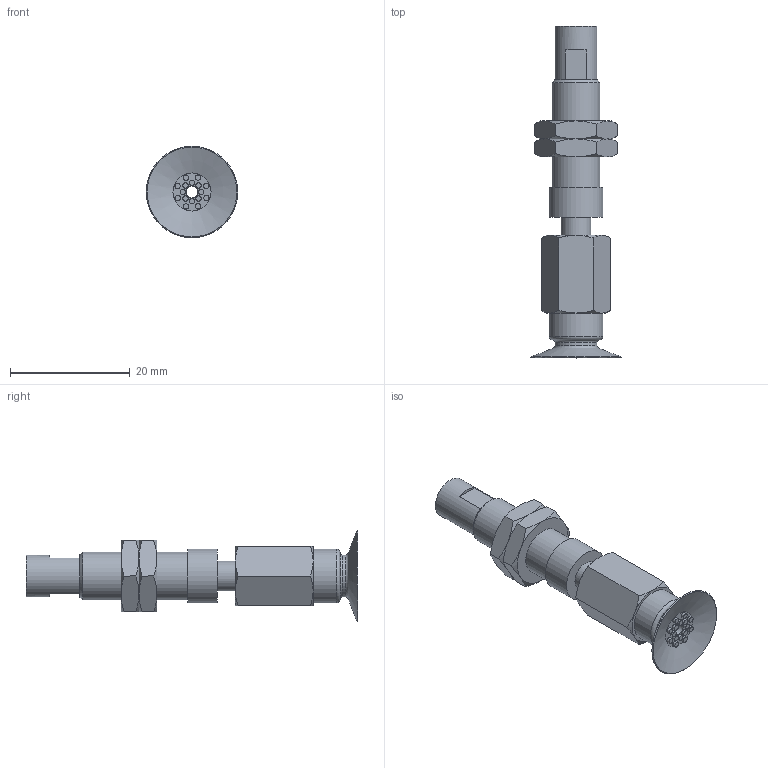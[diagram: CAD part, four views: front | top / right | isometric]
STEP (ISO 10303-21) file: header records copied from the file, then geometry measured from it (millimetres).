
FILE_DESCRIPTION(('STEP AP203'),'1');
FILE_NAME('.stp','2025-08-26T08:45:22',(' '),(' '),'Spatial InterOp 3D',' ',' ');
FILE_SCHEMA(('CONFIG_CONTROL_DESIGN'));
Length unit declared in the file: millimetre
Products named in the file (6): BNABPATS-15A-3-※; ADAPTER; NAPATS-10A-3--M; NAPATS-10A-3--F; Nut-10A-S; BPAG-15A-※_3D
Assembly tree (6 placements, depth 2):
  BNABPATS-15A-3-※
    ADAPTER
    NAPATS-10A-3--M
    NAPATS-10A-3--F
    Nut-10A-S  x2
    BPAG-15A-※_3D
Bounding box: 15.3 x 55.5 x 15.3 mm (x, y, z)
Volume: 3408 mm3; surface area: 4129.8 mm2
Topology: 6 solids, 6 shells, 144 faces, 281 edges, 172 vertices
Faces by surface type: plane 57, cone 45, cylinder 33, torus 9
Full cylindrical faces by diameter (mm): 0.9 x16, 2 x3, 4 x2, 4.134 x1, 5 x2, 6 x2, 7 x2, 7.188 x2, 8 x1, 9 x2
Entity records: 3264 total; most frequent: CARTESIAN_POINT 728, DIRECTION 490, ORIENTED_EDGE 352, AXIS2_PLACEMENT_3D 234, EDGE_LOOP 202, EDGE_CURVE 176, FACE_OUTER_BOUND 162, VERTEX_POINT 136
